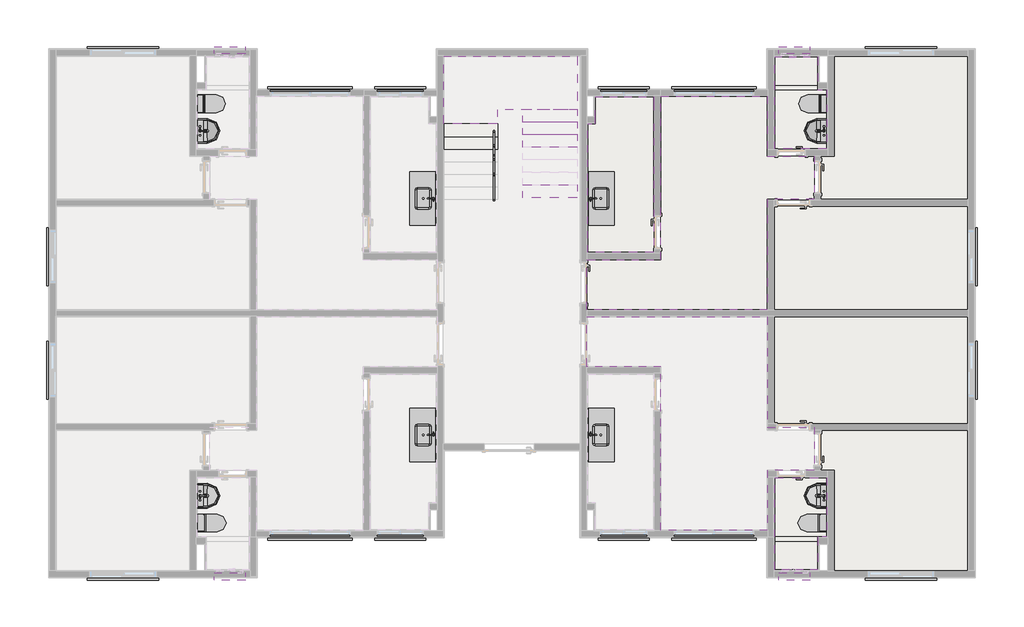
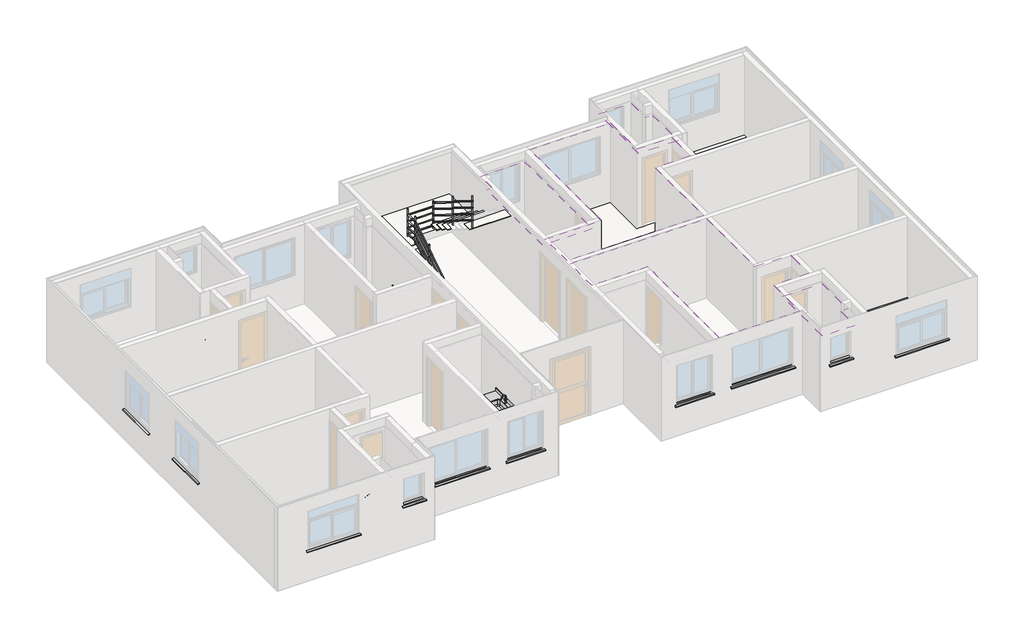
# One storey, part 11 of 11: 24 flow terminals, 20 proxies, 19 slabs, 5 coverings, 4 furniture elements, 1 railing.
"""IFC4 building model written with IfcOpenShell, lengths in millimetres."""

from ifc_helpers import new_model, si_unit, frame, origin, origin_with_axes, place, context, project, spatial, polyline, outline, extrude, faceted_brep, transform, mapped, element, save
from components import peitoril_peitoril_3_cm_d5d00cd0, peitoril_peitoril_3_cm_9406f1cb, peitoril_peitoril_3_cm_188c827f, peitoril_peitoril_3_cm_88708ed2, peitoril_peitoril_3_cm_319a31b0, peitoril_peitoril_3_cm_ceeb61d0, peitoril_peitoril_3_cm_04364ac9, peitoril_peitoril_3_cm_3798d146, peitoril_peitoril_3_cm_e052e7be, peitoril_peitoril_3_cm_b809ef5a, flow_terminal_fb00f1ee, flow_terminal_a2c34cfb, flow_terminal_2b854958, flow_terminal_a1eea942, flow_terminal_109c0629, flow_terminal_5e795d7a, flow_terminal_b1bb3d39, flow_terminal_9a69dd1e, flow_terminal_59b935d0, flow_terminal_63f1f31f, furniture_4236819a, furniture_3bfc2c75, metalico_900mm_8390f29c

model = new_model("IFC4")

# Units and contexts
model_context = context("Model", 3, world=origin())
ifc_project = project(units=[si_unit("LENGTHUNIT", "METRE", prefix="MILLI")], contexts=[model_context])

# Site, building, storey
site = spatial("IfcSite", under=ifc_project)
building = spatial("IfcBuilding", under=site)
storey = spatial("IfcBuildingStorey", under=building, Name="Térreo", Elevation=0.0)

# Proxies
placement = place(None, origin())
peitoril_peitoril_3_cm_shape = peitoril_peitoril_3_cm_d5d00cd0(model_context)
element("IfcBuildingElementProxy", 1, Name="Peitoril : Peitoril 3 cm", ObjectType="Peitoril : Peitoril 3 cm", at=placement, inside=storey, context=model_context, shape_type="MappedRepresentation", body=[
    mapped(peitoril_peitoril_3_cm_shape, transform((1513.1839943, 12261.3233304, 90.0), x_axis=(1.0, 0.0, 0.0), y_axis=(0.0, 1.0, 0.0), z_axis=(0.0, 0.0, 1.0))),
])
element("IfcBuildingElementProxy", 2, Name="Peitoril : Peitoril 3 cm", ObjectType="Peitoril : Peitoril 3 cm", at=placement, inside=storey, context=model_context, shape_type="MappedRepresentation", body=[
    mapped(peitoril_peitoril_3_cm_shape, transform((19306.810713, 538.6971587, 90.0), x_axis=(-1.0, 0.0, 0.0), y_axis=(0.0, -1.0, 0.0), z_axis=(0.0, 0.0, 1.0))),
])
peitoril_peitoril_3_cm_2_shape = peitoril_peitoril_3_cm_9406f1cb(model_context)
element("IfcBuildingElementProxy", 3, Name="Peitoril : Peitoril 3 cm", ObjectType="Peitoril : Peitoril 3 cm", at=placement, inside=storey, context=model_context, shape_type="MappedRepresentation", body=[
    mapped(peitoril_peitoril_3_cm_2_shape, transform((88.7010956, 7513.1959901, 90.0), x_axis=(0.0, 1.0, 0.0), y_axis=(-1.0, 0.0, 0.0), z_axis=(0.0, 0.0, 1.0))),
])
element("IfcBuildingElementProxy", 4, Name="Peitoril : Peitoril 3 cm", ObjectType="Peitoril : Peitoril 3 cm", at=placement, inside=storey, context=model_context, shape_type="MappedRepresentation", body=[
    mapped(peitoril_peitoril_3_cm_2_shape, transform((88.7010956, 4963.1957378, 90.0), x_axis=(0.0, 1.0, 0.0), y_axis=(-1.0, 0.0, 0.0), z_axis=(0.0, 0.0, 1.0))),
])
peitoril_peitoril_3_cm_3_shape = peitoril_peitoril_3_cm_188c827f(model_context)
element("IfcBuildingElementProxy", 5, Name="Peitoril : Peitoril 3 cm", ObjectType="Peitoril : Peitoril 3 cm", at=placement, inside=storey, context=model_context, shape_type="MappedRepresentation", body=[
    mapped(peitoril_peitoril_3_cm_3_shape, transform((5713.1848, 11361.3203873, 90.0), x_axis=(1.0, 0.0, 0.0), y_axis=(0.0, 1.0, 0.0), z_axis=(0.0, 0.0, 1.0))),
])
element("IfcBuildingElementProxy", 6, Name="Peitoril : Peitoril 3 cm", ObjectType="Peitoril : Peitoril 3 cm", at=placement, inside=storey, context=model_context, shape_type="MappedRepresentation", body=[
    mapped(peitoril_peitoril_3_cm_3_shape, transform((15106.8099074, 1438.7002405, 90.0), x_axis=(-1.0, 0.0, 0.0), y_axis=(0.0, -1.0, 0.0), z_axis=(0.0, 0.0, 1.0))),
])
peitoril_peitoril_3_cm_4_shape = peitoril_peitoril_3_cm_88708ed2(model_context)
element("IfcBuildingElementProxy", 7, Name="Peitoril : Peitoril 3 cm", ObjectType="Peitoril : Peitoril 3 cm", at=placement, inside=storey, context=model_context, shape_type="MappedRepresentation", body=[
    mapped(peitoril_peitoril_3_cm_4_shape, transform((3908.1841972, 12261.3236799, 490.0), x_axis=(1.0, 0.0, 0.0), y_axis=(0.0, 1.0, 0.0), z_axis=(0.0, 0.0, 1.0))),
])
element("IfcBuildingElementProxy", 8, Name="Peitoril : Peitoril 3 cm", ObjectType="Peitoril : Peitoril 3 cm", at=placement, inside=storey, context=model_context, shape_type="MappedRepresentation", body=[
    mapped(peitoril_peitoril_3_cm_4_shape, transform((16911.8105102, 538.6971587, 490.0), x_axis=(-1.0, 0.0, 0.0), y_axis=(0.0, -1.0, 0.0), z_axis=(0.0, 0.0, 1.0))),
])
peitoril_peitoril_3_cm_5_shape = peitoril_peitoril_3_cm_319a31b0(model_context)
element("IfcBuildingElementProxy", 9, Name="Peitoril : Peitoril 3 cm", ObjectType="Peitoril : Peitoril 3 cm", at=placement, inside=storey, context=model_context, shape_type="MappedRepresentation", body=[
    mapped(peitoril_peitoril_3_cm_5_shape, transform((7738.18476, 11361.3203873, 90.0), x_axis=(1.0, 0.0, 0.0), y_axis=(0.0, 1.0, 0.0), z_axis=(0.0, 0.0, 1.0))),
])
element("IfcBuildingElementProxy", 10, Name="Peitoril : Peitoril 3 cm", ObjectType="Peitoril : Peitoril 3 cm", at=placement, inside=storey, context=model_context, shape_type="MappedRepresentation", body=[
    mapped(peitoril_peitoril_3_cm_5_shape, transform((8061.8136599, 1438.7002405, 90.0), x_axis=(-1.0, 0.0, 0.0), y_axis=(0.0, -1.0, 0.0), z_axis=(0.0, 0.0, 1.0))),
])
peitoril_peitoril_3_cm_6_shape = peitoril_peitoril_3_cm_ceeb61d0(model_context)
element("IfcBuildingElementProxy", 11, Name="Peitoril : Peitoril 3 cm", ObjectType="Peitoril : Peitoril 3 cm", at=placement, inside=storey, context=model_context, shape_type="MappedRepresentation", body=[
    mapped(peitoril_peitoril_3_cm_6_shape, transform((5713.1848, 1438.7002405, 90.0), x_axis=(1.0, 0.0, 0.0), y_axis=(0.0, 1.0, 0.0), z_axis=(0.0, 0.0, 1.0))),
])
element("IfcBuildingElementProxy", 12, Name="Peitoril : Peitoril 3 cm", ObjectType="Peitoril : Peitoril 3 cm", at=placement, inside=storey, context=model_context, shape_type="MappedRepresentation", body=[
    mapped(peitoril_peitoril_3_cm_6_shape, transform((15106.8099074, 11361.3203873, 90.0), x_axis=(-1.0, 0.0, 0.0), y_axis=(0.0, -1.0, 0.0), z_axis=(0.0, 0.0, 1.0))),
])
peitoril_peitoril_3_cm_7_shape = peitoril_peitoril_3_cm_04364ac9(model_context)
element("IfcBuildingElementProxy", 13, Name="Peitoril : Peitoril 3 cm", ObjectType="Peitoril : Peitoril 3 cm", at=placement, inside=storey, context=model_context, shape_type="MappedRepresentation", body=[
    mapped(peitoril_peitoril_3_cm_7_shape, transform((1513.1839943, 538.6971587, 90.0), x_axis=(1.0, 0.0, 0.0), y_axis=(0.0, 1.0, 0.0), z_axis=(0.0, 0.0, 1.0))),
])
element("IfcBuildingElementProxy", 14, Name="Peitoril : Peitoril 3 cm", ObjectType="Peitoril : Peitoril 3 cm", at=placement, inside=storey, context=model_context, shape_type="MappedRepresentation", body=[
    mapped(peitoril_peitoril_3_cm_7_shape, transform((19306.810713, 12261.3233304, 90.0), x_axis=(-1.0, 0.0, 0.0), y_axis=(0.0, -1.0, 0.0), z_axis=(0.0, 0.0, 1.0))),
])
peitoril_peitoril_3_cm_8_shape = peitoril_peitoril_3_cm_3798d146(model_context)
element("IfcBuildingElementProxy", 15, Name="Peitoril : Peitoril 3 cm", ObjectType="Peitoril : Peitoril 3 cm", at=placement, inside=storey, context=model_context, shape_type="MappedRepresentation", body=[
    mapped(peitoril_peitoril_3_cm_8_shape, transform((3908.1841972, 538.6971587, 490.0), x_axis=(1.0, 0.0, 0.0), y_axis=(0.0, 1.0, 0.0), z_axis=(0.0, 0.0, 1.0))),
])
element("IfcBuildingElementProxy", 16, Name="Peitoril : Peitoril 3 cm", ObjectType="Peitoril : Peitoril 3 cm", at=placement, inside=storey, context=model_context, shape_type="MappedRepresentation", body=[
    mapped(peitoril_peitoril_3_cm_8_shape, transform((16911.8105102, 12261.3236799, 490.0), x_axis=(-1.0, 0.0, 0.0), y_axis=(0.0, -1.0, 0.0), z_axis=(0.0, 0.0, 1.0))),
])
peitoril_peitoril_3_cm_9_shape = peitoril_peitoril_3_cm_e052e7be(model_context)
element("IfcBuildingElementProxy", 17, Name="Peitoril : Peitoril 3 cm", ObjectType="Peitoril : Peitoril 3 cm", at=placement, inside=storey, context=model_context, shape_type="MappedRepresentation", body=[
    mapped(peitoril_peitoril_3_cm_9_shape, transform((20731.2936118, 7513.1959901, 90.0), x_axis=(0.0, 1.0, 0.0), y_axis=(-1.0, 0.0, 0.0), z_axis=(0.0, 0.0, 1.0))),
])
element("IfcBuildingElementProxy", 18, Name="Peitoril : Peitoril 3 cm", ObjectType="Peitoril : Peitoril 3 cm", at=placement, inside=storey, context=model_context, shape_type="MappedRepresentation", body=[
    mapped(peitoril_peitoril_3_cm_9_shape, transform((20731.2936118, 4963.1957378, 90.0), x_axis=(0.0, 1.0, 0.0), y_axis=(-1.0, 0.0, 0.0), z_axis=(0.0, 0.0, 1.0))),
])
peitoril_peitoril_3_cm_10_shape = peitoril_peitoril_3_cm_b809ef5a(model_context)
element("IfcBuildingElementProxy", 19, Name="Peitoril : Peitoril 3 cm", ObjectType="Peitoril : Peitoril 3 cm", at=placement, inside=storey, context=model_context, shape_type="MappedRepresentation", body=[
    mapped(peitoril_peitoril_3_cm_10_shape, transform((13081.8099474, 11361.3203873, 90.0), x_axis=(-1.0, 0.0, 0.0), y_axis=(0.0, -1.0, 0.0), z_axis=(0.0, 0.0, 1.0))),
])
element("IfcBuildingElementProxy", 20, Name="Peitoril : Peitoril 3 cm", ObjectType="Peitoril : Peitoril 3 cm", at=placement, inside=storey, context=model_context, shape_type="MappedRepresentation", body=[
    mapped(peitoril_peitoril_3_cm_10_shape, transform((12758.1810474, 1438.7002405, 90.0), x_axis=(1.0, 0.0, 0.0), y_axis=(0.0, 1.0, 0.0), z_axis=(0.0, 0.0, 1.0))),
])

# Coverings
element("IfcCovering", 21, ObjectType="Forro - Gesso acartonado + Pintura", at=placement, inside=storey, context=model_context, shape_type="Brep", body=[
    faceted_brep([(12282.9983974, 11260.0223004, 2201.0), (13586.992975, 11260.0223004, 2201.0), (13586.992975, 10655.0073729, 2201.0), (13586.992975, 7766.3603139, 2201.0), (12109.9984066, 7766.3603139, 2201.0), (12109.9984066, 10655.0073729, 2201.0), (12282.9983974, 10655.0073729, 2201.0), (13586.992975, 11260.0223004, 2221.0), (12282.9983974, 11260.0223004, 2221.0), (12282.9983974, 10655.0073729, 2221.0), (12109.9984066, 10655.0073729, 2221.0), (12109.9984066, 7766.3603139, 2221.0), (13586.992975, 7766.3603139, 2221.0), (13586.992975, 10655.0073729, 2221.0)], [[[0, 1, 2, 3, 4, 5, 6]], [[7, 8, 9, 10, 11, 12, 13]], [[8, 7, 1, 0]], [[9, 8, 0, 6]], [[10, 9, 6, 5]], [[11, 10, 5, 4]], [[12, 11, 4, 3]], [[7, 13, 12, 3, 2, 1]]]),
    faceted_brep([(13586.992975, 11260.0223004, 2200.0), (12282.9983974, 11260.0223004, 2200.0), (12282.9983974, 11260.0223004, 2201.0), (13586.992975, 11260.0223004, 2201.0), (12282.9983974, 10655.0073729, 2200.0), (12282.9983974, 10655.0073729, 2201.0), (12109.9984066, 10655.0073729, 2200.0), (12109.9984066, 10655.0073729, 2201.0), (12109.9984066, 7766.3603139, 2200.0), (12109.9984066, 7766.3603139, 2201.0), (13586.992975, 7766.3603139, 2200.0), (13586.992975, 7766.3603139, 2201.0), (13586.992975, 10655.0073729, 2200.0), (13586.992975, 10655.0073729, 2201.0)], [[[0, 1, 2, 3]], [[1, 4, 5, 2]], [[4, 6, 7, 5]], [[6, 8, 9, 7]], [[8, 10, 11, 9]], [[12, 0, 3, 13, 11, 10]], [[3, 2, 5, 7, 9, 11, 13]], [[0, 12, 10, 8, 6, 4, 1]]]),
])
element("IfcCovering", 22, ObjectType="Forro - Gesso acartonado + Pintura", at=placement, inside=storey, context=model_context, shape_type="Brep", body=[
    faceted_brep([(16309.9956991, 2709.9967615, 2201.0), (17479.9970535, 2709.9967615, 2201.0), (17479.9970535, 1379.9983274, 2201.0), (17270.0007274, 1379.9983274, 2201.0), (17270.0007274, 639.9950349, 2201.0), (16309.9956991, 639.9950349, 2201.0), (16309.9956991, 1379.9983274, 2201.0), (16309.9956991, 2709.9967615, 2221.0), (16309.9956991, 1379.9983274, 2221.0), (16309.9956991, 639.9950349, 2221.0), (17270.0007274, 639.9950349, 2221.0), (17270.0007274, 1379.9983274, 2221.0), (17479.9970535, 1379.9983274, 2221.0), (17479.9970535, 2709.9967615, 2221.0)], [[[0, 1, 2, 3, 4, 5, 6]], [[7, 8, 9, 10, 11, 12, 13]], [[7, 13, 1, 0]], [[13, 12, 2, 1]], [[12, 11, 3, 2]], [[11, 10, 4, 3]], [[10, 9, 5, 4]], [[9, 8, 7, 0, 6, 5]]]),
    faceted_brep([(17479.9970535, 2709.9967615, 2200.0), (16309.9956991, 2709.9967615, 2200.0), (16309.9956991, 2709.9967615, 2201.0), (17479.9970535, 2709.9967615, 2201.0), (17479.9970535, 1379.9983274, 2200.0), (17479.9970535, 1379.9983274, 2201.0), (17270.0007274, 1379.9983274, 2200.0), (17270.0007274, 1379.9983274, 2201.0), (17270.0007274, 639.9950349, 2200.0), (17270.0007274, 639.9950349, 2201.0), (16309.9956991, 639.9950349, 2200.0), (16309.9956991, 639.9950349, 2201.0), (16309.9956991, 1379.9983274, 2200.0), (16309.9956991, 1379.9983274, 2201.0)], [[[0, 1, 2, 3]], [[4, 0, 3, 5]], [[6, 4, 5, 7]], [[8, 6, 7, 9]], [[10, 8, 9, 11]], [[12, 10, 11, 13, 2, 1]], [[3, 2, 13, 11, 9, 7, 5]], [[1, 0, 4, 6, 8, 10, 12]]]),
])
element("IfcCovering", 23, ObjectType="Forro - Gesso acartonado + Pintura", at=placement, inside=storey, context=model_context, shape_type="Brep", body=[
    faceted_brep([(17479.9970535, 10090.0238664, 2201.0), (16309.9956991, 10090.0238664, 2201.0), (16309.9956991, 11420.0223004, 2201.0), (16309.9956991, 12160.025593, 2201.0), (17270.0007274, 12160.025593, 2201.0), (17270.0007274, 11420.0223004, 2201.0), (17479.9970535, 11420.0223004, 2201.0), (16309.9956991, 10090.0238664, 2221.0), (17479.9970535, 10090.0238664, 2221.0), (17479.9970535, 11420.0223004, 2221.0), (17270.0007274, 11420.0223004, 2221.0), (17270.0007274, 12160.025593, 2221.0), (16309.9956991, 12160.025593, 2221.0), (16309.9956991, 11420.0223004, 2221.0)], [[[0, 1, 2, 3, 4, 5, 6]], [[7, 8, 9, 10, 11, 12, 13]], [[8, 7, 1, 0]], [[9, 8, 0, 6]], [[10, 9, 6, 5]], [[11, 10, 5, 4]], [[12, 11, 4, 3]], [[7, 13, 12, 3, 2, 1]]]),
    faceted_brep([(16309.9956991, 10090.0238664, 2200.0), (17479.9970535, 10090.0238664, 2200.0), (17479.9970535, 10090.0238664, 2201.0), (16309.9956991, 10090.0238664, 2201.0), (17479.9970535, 11420.0223004, 2200.0), (17479.9970535, 11420.0223004, 2201.0), (17270.0007274, 11420.0223004, 2200.0), (17270.0007274, 11420.0223004, 2201.0), (17270.0007274, 12160.025593, 2200.0), (17270.0007274, 12160.025593, 2201.0), (16309.9956991, 12160.025593, 2200.0), (16309.9956991, 12160.025593, 2201.0), (16309.9956991, 11420.0223004, 2200.0), (16309.9956991, 11420.0223004, 2201.0)], [[[0, 1, 2, 3]], [[1, 4, 5, 2]], [[4, 6, 7, 5]], [[6, 8, 9, 7]], [[8, 10, 11, 9]], [[12, 0, 3, 13, 11, 10]], [[3, 2, 5, 7, 9, 11, 13]], [[0, 12, 10, 8, 6, 4, 1]]]),
])
element("IfcCovering", 24, ObjectType="Textura Laje", at=placement, inside=storey, context=model_context, shape_type="SolidModel", body=[
    faceted_brep([(16143.9950207, 8956.0244803, 2510.0), (16143.9950207, 6476.0103139, 2510.0), (16143.9950207, 6476.0103139, 2509.0), (16143.9950207, 8956.0244803, 2509.0), (12089.9984066, 6476.0103139, 2510.0), (12089.9984066, 6476.0103139, 2509.0), (12089.9984066, 7600.3603139, 2510.0), (12089.9984066, 7600.3603139, 2509.0), (13752.9960213, 7600.3603139, 2510.0), (13752.9960213, 11274.0223004, 2510.0), (13752.9960213, 11274.0223004, 2509.0), (13752.9960213, 7600.3603139, 2509.0), (16143.9956991, 11274.0223004, 2510.0), (16143.9956991, 11274.0223004, 2509.0), (16143.9956991, 9924.0238664, 2510.0), (16143.9956991, 9924.0238664, 2509.0), (17193.9966432, 9924.0238664, 2510.0), (17193.9966432, 9924.0238664, 2509.0), (17193.9966432, 8956.0244803, 2510.0), (17193.9966432, 8956.0244803, 2509.0), (12110.1293293, 7600.3603139, 2510.0), (12110.1293293, 7600.3603139, 2509.0)], [[[0, 1, 2, 3]], [[1, 4, 5, 2]], [[4, 6, 7, 5]], [[8, 9, 10, 11]], [[9, 12, 13, 10]], [[12, 14, 15, 13]], [[14, 16, 17, 15]], [[16, 18, 19, 17]], [[18, 0, 3, 19]], [[6, 20, 8, 11, 21, 7]], [[0, 18, 16, 14, 12, 9, 8, 20, 6, 4, 1]], [[3, 2, 5, 7, 21, 11, 10, 13, 15, 17, 19]]]),
    extrude(outline(polyline([(20644.9954507, 8805.0103139), (20644.9954507, 6475.0103139), (16294.9950207, 6475.0103139), (16294.9950207, 8805.0103139), (20644.9954507, 8805.0103139)])), frame((0.0, 0.0, 2509.0), z_axis=(0.0, 0.0, 1.0), x_axis=(1.0, 0.0, 0.0)), (0.0, 0.0, 1.0), 1.0),
    extrude(outline(polyline([(17644.9970013, 12175.0252435), (20644.9955249, 12175.0252435), (20644.9955249, 8955.0254246), (17344.9966432, 8955.0254246), (17344.9966432, 9925.0238664), (17644.9970013, 9925.0238664), (17644.9970013, 12175.0252435)])), frame((0.0, 0.0, 2509.0), z_axis=(0.0, 0.0, 1.0), x_axis=(1.0, 0.0, 0.0)), (0.0, 0.0, 1.0), 1.0),
    faceted_brep([(16143.9950207, 6476.0103139, 2508.0), (16143.9950207, 8956.0244803, 2508.0), (16143.9950207, 8956.0244803, 2509.0), (16143.9950207, 6476.0103139, 2509.0), (12089.9984066, 6476.0103139, 2508.0), (12089.9984066, 6476.0103139, 2509.0), (12089.9984066, 7600.3603139, 2508.0), (12089.9984066, 7600.3603139, 2509.0), (13752.9960213, 11274.0223004, 2508.0), (13752.9960213, 7600.3603139, 2508.0), (13752.9960213, 7600.3603139, 2509.0), (13752.9960213, 11274.0223004, 2509.0), (16143.9956991, 11274.0223004, 2508.0), (16143.9956991, 11274.0223004, 2509.0), (16143.9956991, 9924.0238664, 2508.0), (16143.9956991, 9924.0238664, 2509.0), (17193.9966432, 9924.0238664, 2508.0), (17193.9966432, 9924.0238664, 2509.0), (17193.9966432, 8956.0244803, 2508.0), (17193.9966432, 8956.0244803, 2509.0), (12110.1293293, 7600.3603139, 2508.0), (12110.1293293, 7600.3603139, 2509.0)], [[[0, 1, 2, 3]], [[4, 0, 3, 5]], [[6, 4, 5, 7]], [[8, 9, 10, 11]], [[12, 8, 11, 13]], [[14, 12, 13, 15]], [[16, 14, 15, 17]], [[18, 16, 17, 19]], [[1, 18, 19, 2]], [[1, 0, 4, 6, 20, 9, 8, 12, 14, 16, 18]], [[20, 6, 7, 21, 10, 9]], [[3, 2, 19, 17, 15, 13, 11, 10, 21, 7, 5]]]),
    extrude(outline(polyline([(20644.9954507, 8805.0103139), (20644.9954507, 6475.0103139), (16294.9950207, 6475.0103139), (16294.9950207, 8805.0103139), (20644.9954507, 8805.0103139)])), frame((0.0, 0.0, 2508.0), z_axis=(0.0, 0.0, 1.0), x_axis=(1.0, 0.0, 0.0)), (0.0, 0.0, 1.0), 1.0),
    extrude(outline(polyline([(20644.9955249, 12175.0252435), (20644.9955249, 8955.0254246), (17344.9966432, 8955.0254246), (17344.9966432, 9925.0238664), (17644.9970013, 9925.0238664), (17644.9970013, 12175.0252435), (20644.9955249, 12175.0252435)])), frame((0.0, 0.0, 2508.0), z_axis=(0.0, 0.0, 1.0), x_axis=(1.0, 0.0, 0.0)), (0.0, 0.0, 1.0), 1.0),
])
element("IfcCovering", 25, ObjectType="Textura Laje", at=placement, inside=storey, context=model_context, shape_type="SolidModel", body=[
    faceted_brep([(16143.9950207, 3843.9961476, 2510.0), (16143.9950207, 6324.0103139, 2510.0), (12089.9984066, 6324.0103139, 2510.0), (12089.9984066, 5199.6603139, 2510.0), (12110.1293293, 5199.6603139, 2510.0), (13752.9960213, 5199.6603139, 2510.0), (13752.9960213, 1525.9983274, 2510.0), (16143.9956991, 1525.9983274, 2510.0), (16143.9956991, 2875.9967615, 2510.0), (17193.9966432, 2875.9967615, 2510.0), (17193.9966432, 3843.9961476, 2510.0), (16143.9950207, 6324.0103139, 2509.0), (16143.9950207, 3843.9961476, 2509.0), (17193.9966432, 3843.9961476, 2509.0), (17193.9966432, 2875.9967615, 2509.0), (16143.9956991, 2875.9967615, 2509.0), (16143.9956991, 1525.9983274, 2509.0), (13752.9960213, 1525.9983274, 2509.0), (13752.9960213, 5199.6603139, 2509.0), (12110.1293293, 5199.6603139, 2509.0), (12089.9984066, 5199.6603139, 2509.0), (12089.9984066, 6324.0103139, 2509.0)], [[[0, 1, 2, 3, 4, 5, 6, 7, 8, 9, 10]], [[11, 12, 13, 14, 15, 16, 17, 18, 19, 20, 21]], [[1, 0, 12, 11]], [[2, 1, 11, 21]], [[3, 2, 21, 20]], [[5, 4, 3, 20, 19, 18]], [[6, 5, 18, 17]], [[7, 6, 17, 16]], [[8, 7, 16, 15]], [[9, 8, 15, 14]], [[10, 9, 14, 13]], [[0, 10, 13, 12]]]),
    extrude(outline(polyline([(20644.9954507, 6325.0103139), (20644.9954507, 3995.0103139), (16294.9950207, 3995.0103139), (16294.9950207, 6325.0103139), (20644.9954507, 6325.0103139)])), frame((0.0, 0.0, 2509.0), z_axis=(0.0, 0.0, 1.0), x_axis=(1.0, 0.0, 0.0)), (0.0, 0.0, 1.0), 1.0),
    extrude(outline(polyline([(20644.9955249, 624.9953844), (17644.9970013, 624.9953844), (17644.9970013, 2874.9967615), (17344.9966432, 2874.9967615), (17344.9966432, 3844.9952033), (20644.9955249, 3844.9952033), (20644.9955249, 624.9953844)])), frame((0.0, 0.0, 2509.0), z_axis=(0.0, 0.0, 1.0), x_axis=(1.0, 0.0, 0.0)), (0.0, 0.0, 1.0), 1.0),
    faceted_brep([(16143.9950207, 3843.9961476, 2508.0), (17193.9966432, 3843.9961476, 2508.0), (17193.9966432, 2875.9967615, 2508.0), (16143.9956991, 2875.9967615, 2508.0), (16143.9956991, 1525.9983274, 2508.0), (13752.9960213, 1525.9983274, 2508.0), (13752.9960213, 5199.6603139, 2508.0), (12110.1293293, 5199.6603139, 2508.0), (12089.9984066, 5199.6603139, 2508.0), (12089.9984066, 6324.0103139, 2508.0), (16143.9950207, 6324.0103139, 2508.0), (16143.9950207, 3843.9961476, 2509.0), (16143.9950207, 6324.0103139, 2509.0), (12089.9984066, 6324.0103139, 2509.0), (12089.9984066, 5199.6603139, 2509.0), (12110.1293293, 5199.6603139, 2509.0), (13752.9960213, 5199.6603139, 2509.0), (13752.9960213, 1525.9983274, 2509.0), (16143.9956991, 1525.9983274, 2509.0), (16143.9956991, 2875.9967615, 2509.0), (17193.9966432, 2875.9967615, 2509.0), (17193.9966432, 3843.9961476, 2509.0)], [[[0, 1, 2, 3, 4, 5, 6, 7, 8, 9, 10]], [[11, 12, 13, 14, 15, 16, 17, 18, 19, 20, 21]], [[0, 10, 12, 11]], [[10, 9, 13, 12]], [[9, 8, 14, 13]], [[7, 6, 16, 15, 14, 8]], [[6, 5, 17, 16]], [[5, 4, 18, 17]], [[4, 3, 19, 18]], [[3, 2, 20, 19]], [[2, 1, 21, 20]], [[1, 0, 11, 21]]]),
    extrude(outline(polyline([(20644.9954507, 3995.0103139), (16294.9950207, 3995.0103139), (16294.9950207, 6325.0103139), (20644.9954507, 6325.0103139), (20644.9954507, 3995.0103139)])), frame((0.0, 0.0, 2508.0), z_axis=(0.0, 0.0, 1.0), x_axis=(1.0, 0.0, 0.0)), (0.0, 0.0, 1.0), 1.0),
    extrude(outline(polyline([(20644.9955249, 624.9953844), (17644.9970013, 624.9953844), (17644.9970013, 2874.9967615), (17344.9966432, 2874.9967615), (17344.9966432, 3844.9952033), (20644.9955249, 3844.9952033), (20644.9955249, 624.9953844)])), frame((0.0, 0.0, 2508.0), z_axis=(0.0, 0.0, 1.0), x_axis=(1.0, 0.0, 0.0)), (0.0, 0.0, 1.0), 1.0),
])

# Flow terminals
flow_terminal_shape = flow_terminal_fb00f1ee(model_context)
element("IfcFlowTerminal", 26, ObjectType="Deca_Shared_Assento_P.280 : Bacia Sanitária - Assento", at=placement, inside=storey, context=model_context, shape_type="MappedRepresentation", body=[
    mapped(flow_terminal_shape, transform((3526.0519567, 11100.2075997, 410.0300928), x_axis=(0.0, 1.0, 0.0), y_axis=(0.0, 0.0, 1.0), z_axis=(1.0, 0.0, 0.0))),
])
element("IfcFlowTerminal", 27, ObjectType="Deca_Shared_Assento_P.280 : Bacia Sanitária - Assento", at=placement, inside=storey, context=model_context, shape_type="MappedRepresentation", body=[
    mapped(flow_terminal_shape, transform((17278.9427506, 1699.8130281, 410.0300928), x_axis=(0.0, -1.0, 0.0), y_axis=(0.0, 0.0, 1.0), z_axis=(-1.0, 0.0, 0.0))),
])
flow_terminal_2_shape = flow_terminal_a2c34cfb(model_context)
element("IfcFlowTerminal", 28, ObjectType="DECA_BACIA SANITARIA WISH_P.280_CAIXA ACOPLADA : Bacia Sanitária - Caixa Acoplada Inferior", at=placement, inside=storey, context=model_context, shape_type="MappedRepresentation", body=[
    mapped(flow_terminal_2_shape, transform((3319.9976538, 11105.9659033, 10.0), x_axis=(0.0, 1.0, 0.0), y_axis=(0.0, 0.0, 1.0), z_axis=(1.0, 0.0, 0.0))),
])
element("IfcFlowTerminal", 29, ObjectType="DECA_BACIA SANITARIA WISH_P.280_CAIXA ACOPLADA : Bacia Sanitária - Caixa Acoplada Inferior", at=placement, inside=storey, context=model_context, shape_type="MappedRepresentation", body=[
    mapped(flow_terminal_2_shape, transform((17484.9970535, 1694.0547246, 10.0), x_axis=(0.0, -1.0, 0.0), y_axis=(0.0, 0.0, 1.0), z_axis=(-1.0, 0.0, 0.0))),
])
flow_terminal_3_shape = flow_terminal_2b854958(model_context)
element("IfcFlowTerminal", 30, ObjectType="Deca_Shared_Caixa Acoplada para Bacia_P.280 : Bacia Sanitária - Caixa Acoplada", at=placement, inside=storey, context=model_context, shape_type="MappedRepresentation", body=[
    mapped(flow_terminal_3_shape, transform((3329.9976538, 11105.9657159, 410.0300928), x_axis=(0.0, 1.0, 0.0), y_axis=(0.0, 0.0, 1.0), z_axis=(1.0, 0.0, 0.0))),
])
element("IfcFlowTerminal", 31, ObjectType="Deca_Shared_Caixa Acoplada para Bacia_P.280 : Bacia Sanitária - Caixa Acoplada", at=placement, inside=storey, context=model_context, shape_type="MappedRepresentation", body=[
    mapped(flow_terminal_3_shape, transform((17474.9970535, 1694.0549119, 410.0300928), x_axis=(0.0, -1.0, 0.0), y_axis=(0.0, 0.0, 1.0), z_axis=(-1.0, 0.0, 0.0))),
])
flow_terminal_4_shape = flow_terminal_a1eea942(model_context)
element("IfcFlowTerminal", 32, ObjectType="DECA_BACIA SANITARIA WISH_P.280_CAIXA ACOPLADA : Bacia Sanitária - Caixa Acoplada Inferior", at=placement, inside=storey, context=model_context, shape_type="MappedRepresentation", body=[
    mapped(flow_terminal_4_shape, transform((3334.9976538, 1694.0547246, 10.0), x_axis=(0.0, -1.0, 0.0), y_axis=(0.0, 0.0, -1.0), z_axis=(1.0, 0.0, 0.0))),
])
element("IfcFlowTerminal", 33, ObjectType="DECA_BACIA SANITARIA WISH_P.280_CAIXA ACOPLADA : Bacia Sanitária - Caixa Acoplada Inferior", at=placement, inside=storey, context=model_context, shape_type="MappedRepresentation", body=[
    mapped(flow_terminal_4_shape, transform((17499.9970535, 11105.9659033, 10.0), x_axis=(0.0, 1.0, 0.0), y_axis=(0.0, 0.0, -1.0), z_axis=(-1.0, 0.0, 0.0))),
])
flow_terminal_5_shape = flow_terminal_109c0629(model_context)
element("IfcFlowTerminal", 34, ObjectType="Deca_Shared_Caixa Acoplada para Bacia_P.280 : Bacia Sanitária - Caixa Acoplada", at=placement, inside=storey, context=model_context, shape_type="MappedRepresentation", body=[
    mapped(flow_terminal_5_shape, transform((3344.9976538, 1694.0549119, 410.0300928), x_axis=(0.0, -1.0, 0.0), y_axis=(0.0, 0.0, -1.0), z_axis=(1.0, 0.0, 0.0))),
])
element("IfcFlowTerminal", 35, ObjectType="Deca_Shared_Caixa Acoplada para Bacia_P.280 : Bacia Sanitária - Caixa Acoplada", at=placement, inside=storey, context=model_context, shape_type="MappedRepresentation", body=[
    mapped(flow_terminal_5_shape, transform((17489.9970535, 11105.9657159, 410.0300928), x_axis=(0.0, 1.0, 0.0), y_axis=(0.0, 0.0, -1.0), z_axis=(-1.0, 0.0, 0.0))),
])
flow_terminal_6_shape = flow_terminal_5e795d7a(model_context)
element("IfcFlowTerminal", 36, ObjectType="Deca_Shared_Assento_P.280 : Bacia Sanitária - Assento", at=placement, inside=storey, context=model_context, shape_type="MappedRepresentation", body=[
    mapped(flow_terminal_6_shape, transform((3541.0519567, 1699.8130281, 410.0300928), x_axis=(0.0, -1.0, 0.0), y_axis=(0.0, 0.0, -1.0), z_axis=(1.0, 0.0, 0.0))),
])
element("IfcFlowTerminal", 37, ObjectType="Deca_Shared_Assento_P.280 : Bacia Sanitária - Assento", at=placement, inside=storey, context=model_context, shape_type="MappedRepresentation", body=[
    mapped(flow_terminal_6_shape, transform((17293.9427506, 11100.2075997, 410.0300928), x_axis=(0.0, 1.0, 0.0), y_axis=(0.0, 0.0, -1.0), z_axis=(-1.0, 0.0, 0.0))),
])
flow_terminal_7_shape = flow_terminal_b1bb3d39(model_context)
element("IfcFlowTerminal", 38, ObjectType="Deca_Lavatorio Belle Epoque_L.2_Coluna : Pia Banho", at=placement, inside=storey, context=model_context, shape_type="MappedRepresentation", body=[
    mapped(flow_terminal_7_shape, transform((3334.9976538, 2304.9967615, 793.6791778), x_axis=(0.0, 1.0, 0.0), y_axis=(0.0, 0.0, 1.0), z_axis=(1.0, 0.0, 0.0))),
])
element("IfcFlowTerminal", 39, ObjectType="Deca_Lavatorio Belle Epoque_L.2_Coluna : Pia Banho", at=placement, inside=storey, context=model_context, shape_type="MappedRepresentation", body=[
    mapped(flow_terminal_7_shape, transform((17484.9970535, 10495.0238664, 793.6791778), x_axis=(0.0, -1.0, 0.0), y_axis=(0.0, 0.0, 1.0), z_axis=(-1.0, 0.0, 0.0))),
])
flow_terminal_8_shape = flow_terminal_9a69dd1e(model_context)
element("IfcFlowTerminal", 40, ObjectType="Deca_Lavatorio Belle Epoque_L.2_Coluna : Pia Banho", at=placement, inside=storey, context=model_context, shape_type="MappedRepresentation", body=[
    mapped(flow_terminal_8_shape, transform((3334.9976538, 10495.0238664, 793.6791778), x_axis=(0.0, -1.0, 0.0), y_axis=(0.0, 0.0, -1.0), z_axis=(1.0, 0.0, 0.0))),
])
element("IfcFlowTerminal", 41, ObjectType="Deca_Lavatorio Belle Epoque_L.2_Coluna : Pia Banho", at=placement, inside=storey, context=model_context, shape_type="MappedRepresentation", body=[
    mapped(flow_terminal_8_shape, transform((17484.9970535, 2304.9967615, 793.6791778), x_axis=(0.0, 1.0, 0.0), y_axis=(0.0, 0.0, -1.0), z_axis=(-1.0, 0.0, 0.0))),
])
flow_terminal_9_shape = flow_terminal_59b935d0(model_context)
element("IfcFlowTerminal", 42, ObjectType="Deca_Torneira Lavatorio Izy Plus_1198.C24_Mesa Bica Alta : Torneira Cozinha", at=placement, inside=storey, context=model_context, shape_type="MappedRepresentation", body=[
    mapped(flow_terminal_9_shape, transform((8646.99867, 8980.0223004, 950.0), x_axis=(0.0, -1.0, 0.0), y_axis=(1.0, 0.0, 0.0), z_axis=(0.0, 0.0, 1.0))),
])
element("IfcFlowTerminal", 43, ObjectType="Deca_Torneira Lavatorio Izy Plus_1198.C24_Mesa Bica Alta : Torneira Cozinha", at=placement, inside=storey, context=model_context, shape_type="MappedRepresentation", body=[
    mapped(flow_terminal_9_shape, transform((3406.8910521, 10494.3801324, 811.5038992), x_axis=(0.0, 1.0, 0.0), y_axis=(-1.0, 0.0, 0.0), z_axis=(0.0, 0.0, 1.0))),
])
element("IfcFlowTerminal", 44, ObjectType="Deca_Torneira Lavatorio Izy Plus_1198.C24_Mesa Bica Alta : Torneira Cozinha", at=placement, inside=storey, context=model_context, shape_type="MappedRepresentation", body=[
    mapped(flow_terminal_9_shape, transform((12172.9960374, 3669.9874185, 950.0), x_axis=(0.0, 1.0, 0.0), y_axis=(-1.0, 0.0, 0.0), z_axis=(0.0, 0.0, 1.0))),
])
element("IfcFlowTerminal", 45, ObjectType="Deca_Torneira Lavatorio Izy Plus_1198.C24_Mesa Bica Alta : Torneira Cozinha", at=placement, inside=storey, context=model_context, shape_type="MappedRepresentation", body=[
    mapped(flow_terminal_9_shape, transform((17413.1036553, 2305.6404955, 811.5038992), x_axis=(0.0, -1.0, 0.0), y_axis=(1.0, 0.0, 0.0), z_axis=(0.0, 0.0, 1.0))),
])
flow_terminal_10_shape = flow_terminal_63f1f31f(model_context)
element("IfcFlowTerminal", 46, ObjectType="Deca_Torneira Lavatorio Izy Plus_1198.C24_Mesa Bica Alta : Torneira Cozinha", at=placement, inside=storey, context=model_context, shape_type="MappedRepresentation", body=[
    mapped(flow_terminal_10_shape, transform((8646.99867, 3669.9874185, 950.0), x_axis=(0.0, 1.0, 0.0), y_axis=(-1.0, 0.0, 0.0), z_axis=(0.0, 0.0, 1.0))),
])
element("IfcFlowTerminal", 47, ObjectType="Deca_Torneira Lavatorio Izy Plus_1198.C24_Mesa Bica Alta : Torneira Cozinha", at=placement, inside=storey, context=model_context, shape_type="MappedRepresentation", body=[
    mapped(flow_terminal_10_shape, transform((3406.8910521, 2305.6404955, 811.5038992), x_axis=(0.0, -1.0, 0.0), y_axis=(1.0, 0.0, 0.0), z_axis=(0.0, 0.0, 1.0))),
])
element("IfcFlowTerminal", 48, ObjectType="Deca_Torneira Lavatorio Izy Plus_1198.C24_Mesa Bica Alta : Torneira Cozinha", at=placement, inside=storey, context=model_context, shape_type="MappedRepresentation", body=[
    mapped(flow_terminal_10_shape, transform((12172.9960374, 8980.0223004, 950.0), x_axis=(0.0, -1.0, 0.0), y_axis=(1.0, 0.0, 0.0), z_axis=(0.0, 0.0, 1.0))),
])
element("IfcFlowTerminal", 49, ObjectType="Deca_Torneira Lavatorio Izy Plus_1198.C24_Mesa Bica Alta : Torneira Cozinha", at=placement, inside=storey, context=model_context, shape_type="MappedRepresentation", body=[
    mapped(flow_terminal_10_shape, transform((17413.1036553, 10494.3801324, 811.5038992), x_axis=(0.0, 1.0, 0.0), y_axis=(-1.0, 0.0, 0.0), z_axis=(0.0, 0.0, 1.0))),
])

# Furniture
furniture_shape = furniture_4236819a(model_context)
element("IfcFurniture", 50, ObjectType="Tampo de Bancada com Cuba : Granilite 60cm", at=placement, inside=storey, context=model_context, shape_type="MappedRepresentation", body=[
    mapped(furniture_shape, transform((8714.9986604, 8379.5600053, 50.0), x_axis=(0.0, -1.0, 0.0), y_axis=(1.0, 0.0, 0.0), z_axis=(0.0, 0.0, 1.0))),
])
element("IfcFurniture", 51, ObjectType="Tampo de Bancada com Cuba : Granilite 60cm", at=placement, inside=storey, context=model_context, shape_type="MappedRepresentation", body=[
    mapped(furniture_shape, transform((12104.996047, 4270.4497136, 50.0), x_axis=(0.0, 1.0, 0.0), y_axis=(-1.0, 0.0, 0.0), z_axis=(0.0, 0.0, 1.0))),
])
furniture_2_shape = furniture_3bfc2c75(model_context)
element("IfcFurniture", 52, ObjectType="Tampo de Bancada com Cuba : Granilite 60cm", at=placement, inside=storey, context=model_context, shape_type="MappedRepresentation", body=[
    mapped(furniture_2_shape, transform((8714.9986604, 4270.4497136, 50.0), x_axis=(0.0, 1.0, 0.0), y_axis=(-1.0, 0.0, 0.0), z_axis=(0.0, 0.0, 1.0))),
])
element("IfcFurniture", 53, ObjectType="Tampo de Bancada com Cuba : Granilite 60cm", at=placement, inside=storey, context=model_context, shape_type="MappedRepresentation", body=[
    mapped(furniture_2_shape, transform((12104.996047, 8379.5600053, 50.0), x_axis=(0.0, -1.0, 0.0), y_axis=(1.0, 0.0, 0.0), z_axis=(0.0, 0.0, 1.0))),
])

# Railing
metalico_900mm_shape = metalico_900mm_8390f29c(model_context)
element("IfcRailing", 54, ObjectType="Metalico 900mm", at=placement, inside=storey, context=model_context, shape_type="MappedRepresentation", body=[
    mapped(metalico_900mm_shape, transform((0.0, 0.0, 0.0), x_axis=(1.0, 0.0, 0.0), y_axis=(0.0, 1.0, 0.0), z_axis=(0.0, 0.0, 1.0))),
])

# Slabs
element("IfcSlab", 55, ObjectType="Pedra Basalto", at=placement, inside=storey, context=model_context, shape_type="SweptSolid", body=[
    extrude(outline(polyline([(16310.0007274, 11515.0235306), (17290.0007274, 11515.0235306), (17290.0007274, 11415.0235306), (16310.0007274, 11415.0235306), (16310.0007274, 11515.0235306)])), frame((0.0, 0.0, 90.0), z_axis=(0.0, 0.0, 1.0), x_axis=(1.0, 0.0, 0.0)), (0.0, 0.0, 1.0), 20.0),
])
element("IfcSlab", 56, ObjectType="Cerâmica piso + Impermeabilização", at=placement, inside=storey, context=model_context, shape_type="SweptSolid", body=[
    extrude(outline(polyline([(16310.0007274, 1294.9970972), (17270.0007274, 1294.9970972), (17270.0007274, 639.9950349), (16310.0007274, 639.9950349), (16310.0007274, 1294.9970972)])), frame((0.0, 0.0, -1.0), z_axis=(0.0, 0.0, 1.0), x_axis=(1.0, 0.0, 0.0)), (0.0, 0.0, 1.0), 11.0),
])
element("IfcSlab", 57, ObjectType="Pedra Basalto", at=placement, inside=storey, context=model_context, shape_type="SweptSolid", body=[
    extrude(outline(polyline([(16310.0007274, 1284.9970972), (16310.0007274, 1384.9970972), (17290.0007274, 1384.9970972), (17290.0007274, 1284.9970972), (16310.0007274, 1284.9970972)])), frame((0.0, 0.0, 90.0), z_axis=(0.0, 0.0, 1.0), x_axis=(1.0, 0.0, 0.0)), (0.0, 0.0, 1.0), 20.0),
])
element("IfcSlab", 58, ObjectType="Cerâmica", at=placement, inside=storey, context=model_context, shape_type="SweptSolid", body=[
    extrude(outline(polyline([(16309.9956991, 1379.9970972), (16309.9956991, 2709.9967615), (17479.9970535, 2709.9967615), (17479.9970535, 1379.9970972), (16309.9956991, 1379.9970972)])), origin_with_axes(), (0.0, 0.0, 1.0), 10.0),
])
element("IfcSlab", 59, ObjectType="Cerâmica piso + Impermeabilização", at=placement, inside=storey, context=model_context, shape_type="SweptSolid", body=[
    extrude(outline(polyline([(16310.0007274, 11505.0235306), (16310.0007274, 12160.025593), (17270.0007274, 12160.025593), (17270.0007274, 11505.0235306), (16310.0007274, 11505.0235306)])), frame((0.0, 0.0, -1.0), z_axis=(0.0, 0.0, 1.0), x_axis=(1.0, 0.0, 0.0)), (0.0, 0.0, 1.0), 11.0),
])
element("IfcSlab", 60, ObjectType="Cerâmica", at=placement, inside=storey, context=model_context, shape_type="SweptSolid", body=[
    extrude(outline(polyline([(16309.9956991, 11420.0235306), (17479.9970535, 11420.0235306), (17479.9970535, 10090.0238664), (16309.9956991, 10090.0238664), (16309.9956991, 11420.0235306)])), origin_with_axes(), (0.0, 0.0, 1.0), 10.0),
])
element("IfcSlab", 61, ObjectType="Cerâmica", at=placement, inside=storey, context=model_context, shape_type="SweptSolid", body=[
    extrude(outline(polyline([(12109.9984066, 7766.3603139), (12109.9984066, 10655.0073729), (12282.9983974, 10655.0073729), (12282.9983974, 11260.0223004), (13586.992975, 11260.0223004), (13586.992975, 10655.0073729), (13586.992975, 7766.3603139), (12109.9984066, 7766.3603139)])), origin_with_axes(), (0.0, 0.0, 1.0), 10.0),
])
element("IfcSlab", 62, ObjectType="Vinilico", at=placement, inside=storey, context=model_context, shape_type="SweptSolid", body=[
    extrude(outline(polyline([(16295.9950207, 6324.0103139), (20643.9955249, 6324.0103139), (20643.9955249, 3925.9951411), (16295.9950207, 3925.9951411), (16295.9950207, 6324.0103139)])), origin_with_axes(), (0.0, 0.0, 1.0), 10.0),
])
element("IfcSlab", 63, ObjectType="Vinilico", at=placement, inside=storey, context=model_context, shape_type="SweptSolid", body=[
    extrude(outline(polyline([(16295.9950207, 8804.0244803), (20643.9955249, 8804.0244803), (20643.9955249, 6476.0103139), (16295.9950207, 6476.0103139), (16295.9950207, 8804.0244803)])), origin_with_axes(), (0.0, 0.0, 1.0), 10.0),
])
element("IfcSlab", 64, ObjectType="Cerâmica", at=placement, inside=storey, context=model_context, shape_type="SweptSolid", body=[
    extrude(outline(polyline([(12095.9984066, 6476.0103139), (12095.9984066, 7600.3603139), (13752.9960213, 7600.3603139), (13752.9960213, 11280.0223004), (16143.9956991, 11280.0223004), (16143.9956991, 9924.0238664), (17193.9966432, 9924.0238664), (17193.9966432, 8956.0244803), (16143.9950207, 8956.0244803), (16143.9950207, 6476.0103139), (12095.9984066, 6476.0103139)])), origin_with_axes(), (0.0, 0.0, 1.0), 10.0),
])
element("IfcSlab", 65, ObjectType="Vinilico", at=placement, inside=storey, context=model_context, shape_type="SweptSolid", body=[
    extrude(outline(polyline([(20643.9955249, 12174.0253822), (20643.9955249, 8954.0253822), (17345.9970535, 8954.0253822), (17345.9970535, 9924.0253822), (17645.9970535, 9924.0253822), (17645.9970535, 12174.0253822), (20643.9955249, 12174.0253822)])), origin_with_axes(), (0.0, 0.0, 1.0), 10.0),
])
element("IfcSlab", 66, ObjectType="Vinilico", at=placement, inside=storey, context=model_context, shape_type="SweptSolid", body=[
    extrude(outline(polyline([(20643.9955249, 625.9952456), (17645.9970535, 625.9952456), (17645.9970535, 2875.9952456), (17345.9970535, 2875.9952456), (17345.9970535, 3845.9952456), (20643.9955249, 3845.9952456), (20643.9955249, 625.9952456)])), origin_with_axes(), (0.0, 0.0, 1.0), 10.0),
])
element("IfcSlab", 67, ObjectType="Degrau escada", at=placement, inside=storey, context=model_context, shape_type="SweptSolid", body=[
    extrude(outline(polyline([(11869.9958537, 10704.9988327), (11869.9958537, 10409.9988127), (10654.9958537, 10409.9988127), (10654.9958537, 10704.9988327), (11869.9958537, 10704.9988327)])), frame((0.0, 0.0, 1577.7), z_axis=(0.0, 0.0, 1.0), x_axis=(1.0, 0.0, 0.0)), (0.0, 0.0, 1.0), 20.0),
])
element("IfcSlab", 68, ObjectType="Degrau escada", at=placement, inside=storey, context=model_context, shape_type="SweptSolid", body=[
    extrude(outline(polyline([(11869.9958537, 10984.9988327), (11869.9958537, 10689.9988127), (10654.9958537, 10689.9988127), (10654.9958537, 10984.9988327), (11869.9958537, 10984.9988327)])), frame((0.0, 0.0, 1402.4), z_axis=(0.0, 0.0, 1.0), x_axis=(1.0, 0.0, 0.0)), (0.0, 0.0, 1.0), 20.0),
])
element("IfcSlab", 69, ObjectType="Degrau escada", at=placement, inside=storey, context=model_context, shape_type="SweptSolid", body=[
    extrude(outline(polyline([(10094.9954646, 10375.5366253), (10094.9954646, 10080.5366053), (8879.9954646, 10080.5366053), (8879.9954646, 10375.5366253), (10094.9954646, 10375.5366253)])), frame((0.0, 0.0, 876.5), z_axis=(0.0, 0.0, 1.0), x_axis=(1.0, 0.0, 0.0)), (0.0, 0.0, 1.0), 20.0),
])
element("IfcSlab", 70, ObjectType="Degrau escada", at=placement, inside=storey, context=model_context, shape_type="SweptSolid", body=[
    extrude(outline(polyline([(10094.9954646, 10655.5366253), (10094.9954646, 10360.5366053), (8879.9954646, 10360.5366053), (8879.9954646, 10655.5366253), (10094.9954646, 10655.5366253)])), frame((0.0, 0.0, 1051.8), z_axis=(0.0, 0.0, 1.0), x_axis=(1.0, 0.0, 0.0)), (0.0, 0.0, 1.0), 20.0),
])
element("IfcSlab", 71, ObjectType="Degrau escada", at=placement, inside=storey, context=model_context, shape_type="SweptSolid", body=[
    extrude(outline(polyline([(11869.9958537, 10419.9988327), (11869.9958537, 10124.9988127), (10654.9958537, 10124.9988127), (10654.9958537, 10419.9988327), (11869.9958537, 10419.9988327)])), frame((0.0, 0.0, 1753.0), z_axis=(0.0, 0.0, 1.0), x_axis=(1.0, 0.0, 0.0)), (0.0, 0.0, 1.0), 20.0),
])
element("IfcSlab", 72, ObjectType="Degrau escada", at=placement, inside=storey, context=model_context, shape_type="SweptSolid", body=[
    extrude(outline(polyline([(11869.9958537, 9289.9988327), (11869.9958537, 8994.9988127), (10654.9958537, 8994.9988127), (10654.9958537, 9289.9988327), (11869.9958537, 9289.9988327)])), frame((0.0, 0.0, 2454.2), z_axis=(0.0, 0.0, 1.0), x_axis=(1.0, 0.0, 0.0)), (0.0, 0.0, 1.0), 20.0),
])
element("IfcSlab", 73, ObjectType="Porcelanato", at=placement, inside=storey, context=model_context, shape_type="SweptSolid", body=[
    extrude(outline(polyline([(11874.9973788, 12174.9995833), (11874.9973788, 10969.9988127), (10079.9973788, 10969.9988127), (10079.9973788, 10654.9988127), (8874.9973537, 10654.9988127), (8874.9973537, 12174.9995833), (11874.9973788, 12174.9995833)])), frame((0.0, 0.0, 1220.0), z_axis=(0.0, 0.0, 1.0), x_axis=(1.0, 0.0, 0.0)), (0.0, 0.0, 1.0), 10.0),
])

save(model, "model.ifc")
